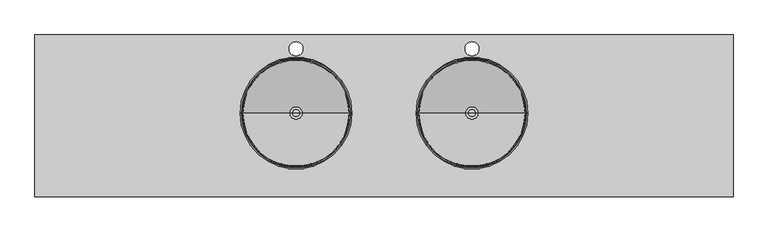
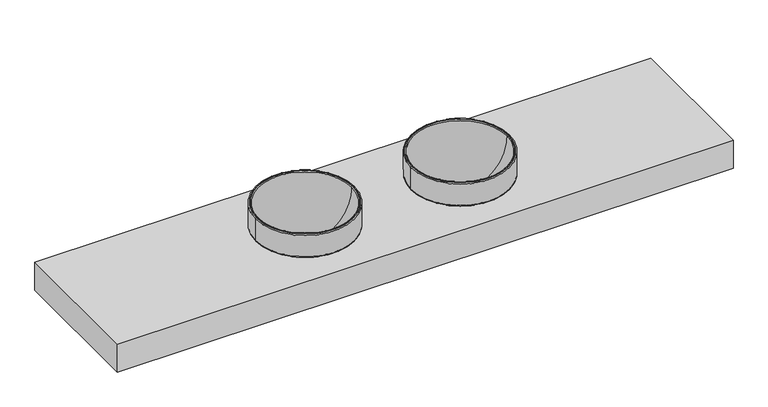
"""IFC4 building model written with IfcOpenShell, lengths in millimetres: flow terminal geometry, CUBIERTA BAÑO : CUBIERTA BAÑO 250CM."""

from ifc_helpers import new_model, si_unit, point, frame, origin, place, context, project, spatial, polyline, circle_curve, ellipse_curve, trimmed, source, transform, mapped, element, save
from ifc_brep_helpers import plane_surface, cylinder_surface, revolved_surface, advanced_brep


def flow_terminal_6561b867(model_context):
    return source(origin(), model_context, "Body", "AdvancedBrep", [
        advanced_brep(
        [(559.7003264, -280.0, 755.0254698), (159.7003264, -280.0, 755.0254698), (164.7257963, -280.0, 750.0), (554.6748566, -280.0, 750.0), (559.7003264, -280.0, 847.1369003), (159.7003264, -280.0, 847.1369003), (556.5666099, -280.0, 850.2706168), (162.834043, -280.0, 850.2706168), (552.8264261, -280.0, 850.2706168), (166.5742268, -280.0, 850.2706168), (549.9406449, -280.0, 847.3848356), (169.460008, -280.0, 847.3848356), (376.6370457, -280.0, 659.6971154), (342.7636072, -280.0, 659.6971154), (376.6370457, -280.0, 649.6794237), (342.7636072, -280.0, 649.6794237), (549.6748566, -280.0, 781.4886928), (169.7257963, -280.0, 781.4886928), (549.6748566, -280.0, 750.0), (169.7257963, -280.0, 750.0)],
        [
            (0, 1, circle_curve(frame((359.7003264, -280.0, 755.0254698), z_axis=(0.0, 0.0, -1.0), x_axis=(-1.0, 0.0, 0.0)), 200.0)),
            (1, 2, circle_curve(frame((164.7257963, -280.0, 755.0254698), z_axis=(0.0, -1.0, 0.0), x_axis=(-1.0, 0.0, 0.0)), 5.0254698)),
            (2, 3, circle_curve(frame((359.7003264, -280.0, 750.0), z_axis=(0.0, 0.0, 1.0), x_axis=(-1.0, 0.0, 0.0)), 194.9745302)),
            (3, 0, circle_curve(frame((554.6748566, -280.0, 755.0254698), z_axis=(0.0, -1.0, 0.0), x_axis=(1.0, 0.0, 0.0)), 5.0254698)),
            (1, 0, circle_curve(frame((359.7003264, -280.0, 755.0254698), z_axis=(0.0, 0.0, -1.0), x_axis=(-1.0, 0.0, 0.0)), 200.0)),
            (3, 2, circle_curve(frame((359.7003264, -280.0, 750.0), z_axis=(0.0, 0.0, 1.0), x_axis=(-1.0, 0.0, 0.0)), 194.9745302)),
            (4, 5, circle_curve(frame((359.7003264, -280.0, 847.1369003), z_axis=(0.0, 0.0, -1.0), x_axis=(-1.0, 0.0, 0.0)), 200.0)),
            (5, 1),
            (0, 4),
            (5, 4, circle_curve(frame((359.7003264, -280.0, 847.1369003), z_axis=(0.0, 0.0, -1.0), x_axis=(-1.0, 0.0, 0.0)), 200.0)),
            (6, 7, circle_curve(frame((359.7003264, -280.0, 850.2706168), z_axis=(0.0, 0.0, -1.0), x_axis=(-1.0, 0.0, 0.0)), 196.8662835)),
            (7, 5, circle_curve(frame((162.834043, -280.0, 847.1369003), z_axis=(0.0, -1.0, 0.0), x_axis=(-1.0, 0.0, 0.0)), 3.1337165)),
            (4, 6, circle_curve(frame((556.5666099, -280.0, 847.1369003), z_axis=(0.0, -1.0, 0.0), x_axis=(1.0, 0.0, 0.0)), 3.1337165)),
            (7, 6, circle_curve(frame((359.7003264, -280.0, 850.2706168), z_axis=(0.0, 0.0, -1.0), x_axis=(-1.0, 0.0, 0.0)), 196.8662835)),
            (8, 9, circle_curve(frame((359.7003264, -280.0, 850.2706168), z_axis=(0.0, 0.0, -1.0), x_axis=(-1.0, 0.0, 0.0)), 193.1260997)),
            (9, 7),
            (6, 8),
            (9, 8, circle_curve(frame((359.7003264, -280.0, 850.2706168), z_axis=(0.0, 0.0, -1.0), x_axis=(-1.0, 0.0, 0.0)), 193.1260997)),
            (10, 11, circle_curve(frame((359.7003264, -280.0, 847.3848356), z_axis=(0.0, 0.0, -1.0), x_axis=(-1.0, 0.0, 0.0)), 190.2403184)),
            (11, 9, circle_curve(frame((166.5742268, -280.0, 847.3848356), z_axis=(0.0, -1.0, 0.0), x_axis=(-1.0, 0.0, 0.0)), 2.8857812)),
            (8, 10, circle_curve(frame((552.8264261, -280.0, 847.3848356), z_axis=(0.0, -1.0, 0.0), x_axis=(1.0, 0.0, 0.0)), 2.8857812)),
            (11, 10, circle_curve(frame((359.7003264, -280.0, 847.3848356), z_axis=(0.0, 0.0, -1.0), x_axis=(-1.0, 0.0, 0.0)), 190.2403184)),
            (12, 13, circle_curve(frame((359.7003264, -280.0, 659.6971154), z_axis=(0.0, 0.0, -1.0), x_axis=(-1.0, 0.0, 0.0)), 16.9367193)),
            (13, 11, circle_curve(frame((354.0281906, -280.0, 843.9531856), z_axis=(0.0, 1.0, 0.0), x_axis=(-1.0, 0.0, 0.0)), 184.6000819)),
            (10, 12, circle_curve(frame((365.3724623, -280.0, 843.9531856), z_axis=(0.0, 1.0, 0.0), x_axis=(1.0, 0.0, 0.0)), 184.6000819)),
            (13, 12, circle_curve(frame((359.7003264, -280.0, 659.6971154), z_axis=(0.0, 0.0, -1.0), x_axis=(-1.0, 0.0, 0.0)), 16.9367193)),
            (14, 15, circle_curve(frame((359.7003264, -280.0, 649.6794237), z_axis=(0.0, 0.0, -1.0), x_axis=(-1.0, 0.0, 0.0)), 16.9367193)),
            (15, 13),
            (12, 14),
            (15, 14, circle_curve(frame((359.7003264, -280.0, 649.6794237), z_axis=(0.0, 0.0, -1.0), x_axis=(-1.0, 0.0, 0.0)), 16.9367193)),
            (16, 17, circle_curve(frame((359.7003264, -280.0, 781.4886928), z_axis=(0.0, 0.0, -1.0), x_axis=(-1.0, 0.0, 0.0)), 189.9745302)),
            (17, 15, circle_curve(frame((354.0281906, -280.0, 843.9531856), z_axis=(0.0, -1.0, 0.0), x_axis=(-1.0, 0.0, 0.0)), 194.6000653)),
            (14, 16, circle_curve(frame((365.3724623, -280.0, 843.9531856), z_axis=(0.0, -1.0, 0.0), x_axis=(1.0, 0.0, 0.0)), 194.6000653)),
            (17, 16, circle_curve(frame((359.7003264, -280.0, 781.4886928), z_axis=(0.0, 0.0, -1.0), x_axis=(-1.0, 0.0, 0.0)), 189.9745302)),
            (18, 19, circle_curve(frame((359.7003264, -280.0, 750.0), z_axis=(0.0, 0.0, -1.0), x_axis=(-1.0, 0.0, 0.0)), 189.9745302)),
            (19, 17),
            (16, 18),
            (19, 18, circle_curve(frame((359.7003264, -280.0, 750.0), z_axis=(0.0, 0.0, -1.0), x_axis=(-1.0, 0.0, 0.0)), 189.9745302)),
            (2, 19),
            (18, 3),
        ],
        [
            revolved_surface(trimmed(ellipse_curve(frame((164.7257963, -280.0, 755.0254698), z_axis=(0.0, 1.0, 0.0), x_axis=(-1.0, 0.0, 0.0)), 5.0254698, 5.0254698), [point((164.7257963, -280.0, 750.0))], [point((159.7003264, -280.0, 755.0254698))], True, "CARTESIAN"), (359.7003264, -280.0, 700.0), (0.0, 0.0, 1.0)),
            cylinder_surface(frame((359.7003264, -280.0, 700.0), z_axis=(0.0, 0.0, 1.0), x_axis=(-1.0, 0.0, 0.0)), 200.0),
            revolved_surface(trimmed(ellipse_curve(frame((162.834043, -280.0, 847.1369003), z_axis=(0.0, 1.0, 0.0), x_axis=(-1.0, 0.0, 0.0)), 3.1337165, 3.1337165), [point((159.7003264, -280.0, 847.1369003))], [point((162.834043, -280.0, 850.2706168))], True, "CARTESIAN"), (359.7003264, -280.0, 700.0), (0.0, 0.0, 1.0)),
            plane_surface(frame((359.7003264, -280.0, 850.2706168), z_axis=(0.0, 0.0, 1.0), x_axis=(-1.0, 0.0, 0.0))),
            revolved_surface(trimmed(ellipse_curve(frame((166.5742268, -280.0, 847.3848356), z_axis=(0.0, 1.0, 0.0), x_axis=(-1.0, 0.0, 0.0)), 2.8857812, 2.8857812), [point((166.5742268, -280.0, 850.2706168))], [point((169.460008, -280.0, 847.3848356))], True, "CARTESIAN"), (359.7003264, -280.0, 700.0), (0.0, 0.0, 1.0)),
            revolved_surface(trimmed(ellipse_curve(frame((354.0281906, -280.0, 843.9531856), z_axis=(0.0, -1.0, 0.0), x_axis=(-1.0, 0.0, 0.0)), 184.6000819, 184.6000819), [point((169.460008, -280.0, 847.3848356))], [point((342.7636072, -280.0, 659.6971154))], True, "CARTESIAN"), (359.7003264, -280.0, 700.0), (0.0, 0.0, 1.0)),
            revolved_surface(polyline([(342.7636071, -280.0, 659.6971154), (342.7636071, -280.0, 649.6794237)]), (359.7003264, -280.0, 700.0), (0.0, 0.0, 1.0)),
            revolved_surface(trimmed(ellipse_curve(frame((354.0281906, -280.0, 843.9531856), z_axis=(0.0, 1.0, 0.0), x_axis=(-1.0, 0.0, 0.0)), 194.6000653, 194.6000653), [point((342.7636072, -280.0, 649.6794237))], [point((169.7257963, -280.0, 781.4886928))], True, "CARTESIAN"), (359.7003264, -280.0, 700.0), (0.0, 0.0, 1.0)),
            revolved_surface(polyline([(169.7257962, -280.0, 781.4886928), (169.7257962, -280.0, 750.0)]), (359.7003264, -280.0, 700.0), (0.0, 0.0, 1.0)),
            plane_surface(frame((359.7003264, -280.0, 750.0), z_axis=(0.0, 0.0, -1.0), x_axis=(-1.0, 0.0, 0.0))),
        ],
        [
            (0, [[1, 2, 3, 4]]),
            (0, [[5, -4, 6, -2]]),
            (1, [[7, 8, -1, 9]]),
            (1, [[10, -9, -5, -8]]),
            (2, [[11, 12, -7, 13]]),
            (2, [[14, -13, -10, -12]]),
            (3, [[15, 16, -11, 17]]),
            (3, [[18, -17, -14, -16]]),
            (4, [[19, 20, -15, 21]]),
            (4, [[22, -21, -18, -20]]),
            (5, [[23, 24, -19, 25]]),
            (5, [[26, -25, -22, -24]]),
            (6, [[27, 28, -23, 29]]),
            (6, [[30, -29, -26, -28]]),
            (7, [[31, 32, -27, 33]]),
            (7, [[34, -33, -30, -32]]),
            (8, [[35, 36, -31, 37]]),
            (8, [[38, -37, -34, -36]]),
            (9, [[-3, 39, -35, 40]]),
            (9, [[-6, -40, -38, -39]]),
        ],
    ),
        advanced_brep(
        [(373.4382327, -280.0, 661.875), (345.9624201, -280.0, 661.875), (337.7003264, -280.0, 661.875), (381.7003264, -280.0, 661.875), (373.4382327, -280.0, 643.7247134), (345.9624201, -280.0, 643.7247134), (359.7003264, -280.0, 643.7247134), (376.7003264, -280.0, 640.0), (342.7003264, -280.0, 640.0), (359.7003264, -280.0, 640.0), (376.7003264, -280.0, 660.339751), (342.7003264, -280.0, 660.339751), (381.7003264, -280.0, 660.339751), (337.7003264, -280.0, 660.339751)],
        [
            (0, 1, circle_curve(frame((359.7003264, -280.0, 661.875), z_axis=(0.0, 0.0, -1.0), x_axis=(-1.0, 0.0, 0.0)), 13.7379063)),
            (1, 2),
            (2, 3, circle_curve(frame((359.7003264, -280.0, 661.875), z_axis=(0.0, 0.0, 1.0), x_axis=(-1.0, 0.0, 0.0)), 22.0)),
            (3, 0),
            (1, 0, circle_curve(frame((359.7003264, -280.0, 661.875), z_axis=(0.0, 0.0, -1.0), x_axis=(-1.0, 0.0, 0.0)), 13.7379063)),
            (3, 2, circle_curve(frame((359.7003264, -280.0, 661.875), z_axis=(0.0, 0.0, 1.0), x_axis=(-1.0, 0.0, 0.0)), 22.0)),
            (4, 5, circle_curve(frame((359.7003264, -280.0, 643.7247134), z_axis=(0.0, 0.0, -1.0), x_axis=(-1.0, 0.0, 0.0)), 13.7379063)),
            (5, 1),
            (0, 4),
            (5, 4, circle_curve(frame((359.7003264, -280.0, 643.7247134), z_axis=(0.0, 0.0, -1.0), x_axis=(-1.0, 0.0, 0.0)), 13.7379063)),
            (6, 5),
            (4, 6),
            (7, 8, circle_curve(frame((359.7003264, -280.0, 640.0), z_axis=(0.0, 0.0, -1.0), x_axis=(-1.0, 0.0, 0.0)), 17.0)),
            (8, 9),
            (9, 7),
            (8, 7, circle_curve(frame((359.7003264, -280.0, 640.0), z_axis=(0.0, 0.0, -1.0), x_axis=(-1.0, 0.0, 0.0)), 17.0)),
            (10, 11, circle_curve(frame((359.7003264, -280.0, 660.339751), z_axis=(0.0, 0.0, -1.0), x_axis=(-1.0, 0.0, 0.0)), 17.0)),
            (11, 8),
            (7, 10),
            (11, 10, circle_curve(frame((359.7003264, -280.0, 660.339751), z_axis=(0.0, 0.0, -1.0), x_axis=(-1.0, 0.0, 0.0)), 17.0)),
            (12, 13, circle_curve(frame((359.7003264, -280.0, 660.339751), z_axis=(0.0, 0.0, -1.0), x_axis=(-1.0, 0.0, 0.0)), 22.0)),
            (13, 11),
            (10, 12),
            (13, 12, circle_curve(frame((359.7003264, -280.0, 660.339751), z_axis=(0.0, 0.0, -1.0), x_axis=(-1.0, 0.0, 0.0)), 22.0)),
            (2, 13),
            (12, 3),
        ],
        [
            plane_surface(frame((359.7003264, -280.0, 661.875), z_axis=(0.0, 0.0, 1.0), x_axis=(-1.0, 0.0, 0.0))),
            revolved_surface(polyline([(345.9624201, -280.0, 661.875), (345.9624201, -280.0, 643.7247134)]), (359.7003264, -280.0, 639.8833255), (0.0, 0.0, 1.0)),
            plane_surface(frame((359.7003264, -280.0, 643.7247134), z_axis=(0.0, 0.0, 1.0), x_axis=(-1.0, 0.0, 0.0))),
            plane_surface(frame((359.7003264, -280.0, 640.0), z_axis=(0.0, 0.0, -1.0), x_axis=(-1.0, 0.0, 0.0))),
            cylinder_surface(frame((359.7003264, -280.0, 639.8833255), z_axis=(0.0, 0.0, 1.0), x_axis=(-1.0, 0.0, 0.0)), 17.0),
            plane_surface(frame((359.7003264, -280.0, 660.339751), z_axis=(0.0, 0.0, -1.0), x_axis=(-1.0, 0.0, 0.0))),
            cylinder_surface(frame((359.7003264, -280.0, 639.8833255), z_axis=(0.0, 0.0, 1.0), x_axis=(-1.0, 0.0, 0.0)), 22.0),
        ],
        [
            (0, [[1, 2, 3, 4]]),
            (0, [[5, -4, 6, -2]]),
            (1, [[7, 8, -1, 9]]),
            (1, [[10, -9, -5, -8]]),
            (2, [[11, -7, 12]]),
            (2, [[-12, -10, -11]]),
            (3, [[13, 14, 15]]),
            (3, [[16, -15, -14]]),
            (4, [[17, 18, -13, 19]]),
            (4, [[20, -19, -16, -18]]),
            (5, [[21, 22, -17, 23]]),
            (5, [[24, -23, -20, -22]]),
            (6, [[-3, 25, -21, 26]]),
            (6, [[-6, -26, -24, -25]]),
        ],
    ),
        advanced_brep(
        [(-70.2996736, -280.0, 755.0254698), (-470.2996736, -280.0, 755.0254698), (-465.2742037, -280.0, 750.0), (-75.3251434, -280.0, 750.0), (-70.2996736, -280.0, 847.1369003), (-470.2996736, -280.0, 847.1369003), (-73.4333901, -280.0, 850.2706168), (-467.165957, -280.0, 850.2706168), (-77.1735739, -280.0, 850.2706168), (-463.4257732, -280.0, 850.2706168), (-80.0593551, -280.0, 847.3848356), (-460.539992, -280.0, 847.3848356), (-253.3629543, -280.0, 659.6971154), (-287.2363928, -280.0, 659.6971154), (-253.3629543, -280.0, 649.6794237), (-287.2363928, -280.0, 649.6794237), (-80.3251434, -280.0, 781.4886928), (-460.2742037, -280.0, 781.4886928), (-80.3251434, -280.0, 750.0), (-460.2742037, -280.0, 750.0)],
        [
            (0, 1, circle_curve(frame((-270.2996736, -280.0, 755.0254698), z_axis=(0.0, 0.0, -1.0), x_axis=(-1.0, 0.0, 0.0)), 200.0)),
            (1, 2, circle_curve(frame((-465.2742037, -280.0, 755.0254698), z_axis=(0.0, -1.0, 0.0), x_axis=(-1.0, 0.0, 0.0)), 5.0254698)),
            (2, 3, circle_curve(frame((-270.2996736, -280.0, 750.0), z_axis=(0.0, 0.0, 1.0), x_axis=(-1.0, 0.0, 0.0)), 194.9745302)),
            (3, 0, circle_curve(frame((-75.3251434, -280.0, 755.0254698), z_axis=(0.0, -1.0, 0.0), x_axis=(1.0, 0.0, 0.0)), 5.0254698)),
            (1, 0, circle_curve(frame((-270.2996736, -280.0, 755.0254698), z_axis=(0.0, 0.0, -1.0), x_axis=(-1.0, 0.0, 0.0)), 200.0)),
            (3, 2, circle_curve(frame((-270.2996736, -280.0, 750.0), z_axis=(0.0, 0.0, 1.0), x_axis=(-1.0, 0.0, 0.0)), 194.9745302)),
            (4, 5, circle_curve(frame((-270.2996736, -280.0, 847.1369003), z_axis=(0.0, 0.0, -1.0), x_axis=(-1.0, 0.0, 0.0)), 200.0)),
            (5, 1),
            (0, 4),
            (5, 4, circle_curve(frame((-270.2996736, -280.0, 847.1369003), z_axis=(0.0, 0.0, -1.0), x_axis=(-1.0, 0.0, 0.0)), 200.0)),
            (6, 7, circle_curve(frame((-270.2996736, -280.0, 850.2706168), z_axis=(0.0, 0.0, -1.0), x_axis=(-1.0, 0.0, 0.0)), 196.8662835)),
            (7, 5, circle_curve(frame((-467.165957, -280.0, 847.1369003), z_axis=(0.0, -1.0, 0.0), x_axis=(-1.0, 0.0, 0.0)), 3.1337165)),
            (4, 6, circle_curve(frame((-73.4333901, -280.0, 847.1369003), z_axis=(0.0, -1.0, 0.0), x_axis=(1.0, 0.0, 0.0)), 3.1337165)),
            (7, 6, circle_curve(frame((-270.2996736, -280.0, 850.2706168), z_axis=(0.0, 0.0, -1.0), x_axis=(-1.0, 0.0, 0.0)), 196.8662835)),
            (8, 9, circle_curve(frame((-270.2996736, -280.0, 850.2706168), z_axis=(0.0, 0.0, -1.0), x_axis=(-1.0, 0.0, 0.0)), 193.1260997)),
            (9, 7),
            (6, 8),
            (9, 8, circle_curve(frame((-270.2996736, -280.0, 850.2706168), z_axis=(0.0, 0.0, -1.0), x_axis=(-1.0, 0.0, 0.0)), 193.1260997)),
            (10, 11, circle_curve(frame((-270.2996736, -280.0, 847.3848356), z_axis=(0.0, 0.0, -1.0), x_axis=(-1.0, 0.0, 0.0)), 190.2403184)),
            (11, 9, circle_curve(frame((-463.4257732, -280.0, 847.3848356), z_axis=(0.0, -1.0, 0.0), x_axis=(-1.0, 0.0, 0.0)), 2.8857812)),
            (8, 10, circle_curve(frame((-77.1735739, -280.0, 847.3848356), z_axis=(0.0, -1.0, 0.0), x_axis=(1.0, 0.0, 0.0)), 2.8857812)),
            (11, 10, circle_curve(frame((-270.2996736, -280.0, 847.3848356), z_axis=(0.0, 0.0, -1.0), x_axis=(-1.0, 0.0, 0.0)), 190.2403184)),
            (12, 13, circle_curve(frame((-270.2996736, -280.0, 659.6971154), z_axis=(0.0, 0.0, -1.0), x_axis=(-1.0, 0.0, 0.0)), 16.9367193)),
            (13, 11, circle_curve(frame((-275.9718094, -280.0, 843.9531856), z_axis=(0.0, 1.0, 0.0), x_axis=(-1.0, 0.0, 0.0)), 184.6000819)),
            (10, 12, circle_curve(frame((-264.6275377, -280.0, 843.9531856), z_axis=(0.0, 1.0, 0.0), x_axis=(1.0, 0.0, 0.0)), 184.6000819)),
            (13, 12, circle_curve(frame((-270.2996736, -280.0, 659.6971154), z_axis=(0.0, 0.0, -1.0), x_axis=(-1.0, 0.0, 0.0)), 16.9367193)),
            (14, 15, circle_curve(frame((-270.2996736, -280.0, 649.6794237), z_axis=(0.0, 0.0, -1.0), x_axis=(-1.0, 0.0, 0.0)), 16.9367193)),
            (15, 13),
            (12, 14),
            (15, 14, circle_curve(frame((-270.2996736, -280.0, 649.6794237), z_axis=(0.0, 0.0, -1.0), x_axis=(-1.0, 0.0, 0.0)), 16.9367193)),
            (16, 17, circle_curve(frame((-270.2996736, -280.0, 781.4886928), z_axis=(0.0, 0.0, -1.0), x_axis=(-1.0, 0.0, 0.0)), 189.9745302)),
            (17, 15, circle_curve(frame((-275.9718094, -280.0, 843.9531856), z_axis=(0.0, -1.0, 0.0), x_axis=(-1.0, 0.0, 0.0)), 194.6000653)),
            (14, 16, circle_curve(frame((-264.6275377, -280.0, 843.9531856), z_axis=(0.0, -1.0, 0.0), x_axis=(1.0, 0.0, 0.0)), 194.6000653)),
            (17, 16, circle_curve(frame((-270.2996736, -280.0, 781.4886928), z_axis=(0.0, 0.0, -1.0), x_axis=(-1.0, 0.0, 0.0)), 189.9745302)),
            (18, 19, circle_curve(frame((-270.2996736, -280.0, 750.0), z_axis=(0.0, 0.0, -1.0), x_axis=(-1.0, 0.0, 0.0)), 189.9745302)),
            (19, 17),
            (16, 18),
            (19, 18, circle_curve(frame((-270.2996736, -280.0, 750.0), z_axis=(0.0, 0.0, -1.0), x_axis=(-1.0, 0.0, 0.0)), 189.9745302)),
            (2, 19),
            (18, 3),
        ],
        [
            revolved_surface(trimmed(ellipse_curve(frame((-465.2742037, -280.0, 755.0254698), z_axis=(0.0, 1.0, 0.0), x_axis=(-1.0, 0.0, 0.0)), 5.0254698, 5.0254698), [point((-465.2742037, -280.0, 750.0))], [point((-470.2996736, -280.0, 755.0254698))], True, "CARTESIAN"), (-270.2996736, -280.0, 700.0), (0.0, 0.0, 1.0)),
            cylinder_surface(frame((-270.2996736, -280.0, 700.0), z_axis=(0.0, 0.0, 1.0), x_axis=(-1.0, 0.0, 0.0)), 200.0),
            revolved_surface(trimmed(ellipse_curve(frame((-467.165957, -280.0, 847.1369003), z_axis=(0.0, 1.0, 0.0), x_axis=(-1.0, 0.0, 0.0)), 3.1337165, 3.1337165), [point((-470.2996736, -280.0, 847.1369003))], [point((-467.165957, -280.0, 850.2706168))], True, "CARTESIAN"), (-270.2996736, -280.0, 700.0), (0.0, 0.0, 1.0)),
            plane_surface(frame((-270.2996736, -280.0, 850.2706168), z_axis=(0.0, 0.0, 1.0), x_axis=(-1.0, 0.0, 0.0))),
            revolved_surface(trimmed(ellipse_curve(frame((-463.4257732, -280.0, 847.3848356), z_axis=(0.0, 1.0, 0.0), x_axis=(-1.0, 0.0, 0.0)), 2.8857812, 2.8857812), [point((-463.4257732, -280.0, 850.2706168))], [point((-460.539992, -280.0, 847.3848356))], True, "CARTESIAN"), (-270.2996736, -280.0, 700.0), (0.0, 0.0, 1.0)),
            revolved_surface(trimmed(ellipse_curve(frame((-275.9718094, -280.0, 843.9531856), z_axis=(0.0, -1.0, 0.0), x_axis=(-1.0, 0.0, 0.0)), 184.6000819, 184.6000819), [point((-460.539992, -280.0, 847.3848356))], [point((-287.2363928, -280.0, 659.6971154))], True, "CARTESIAN"), (-270.2996736, -280.0, 700.0), (0.0, 0.0, 1.0)),
            revolved_surface(polyline([(-287.2363929, -280.0, 659.6971154), (-287.2363929, -280.0, 649.6794237)]), (-270.2996736, -280.0, 700.0), (0.0, 0.0, 1.0)),
            revolved_surface(trimmed(ellipse_curve(frame((-275.9718094, -280.0, 843.9531856), z_axis=(0.0, 1.0, 0.0), x_axis=(-1.0, 0.0, 0.0)), 194.6000653, 194.6000653), [point((-287.2363928, -280.0, 649.6794237))], [point((-460.2742037, -280.0, 781.4886928))], True, "CARTESIAN"), (-270.2996736, -280.0, 700.0), (0.0, 0.0, 1.0)),
            revolved_surface(polyline([(-460.2742038, -280.0, 781.4886928), (-460.2742038, -280.0, 750.0)]), (-270.2996736, -280.0, 700.0), (0.0, 0.0, 1.0)),
            plane_surface(frame((-270.2996736, -280.0, 750.0), z_axis=(0.0, 0.0, -1.0), x_axis=(-1.0, 0.0, 0.0))),
        ],
        [
            (0, [[1, 2, 3, 4]]),
            (0, [[5, -4, 6, -2]]),
            (1, [[7, 8, -1, 9]]),
            (1, [[10, -9, -5, -8]]),
            (2, [[11, 12, -7, 13]]),
            (2, [[14, -13, -10, -12]]),
            (3, [[15, 16, -11, 17]]),
            (3, [[18, -17, -14, -16]]),
            (4, [[19, 20, -15, 21]]),
            (4, [[22, -21, -18, -20]]),
            (5, [[23, 24, -19, 25]]),
            (5, [[26, -25, -22, -24]]),
            (6, [[27, 28, -23, 29]]),
            (6, [[30, -29, -26, -28]]),
            (7, [[31, 32, -27, 33]]),
            (7, [[34, -33, -30, -32]]),
            (8, [[35, 36, -31, 37]]),
            (8, [[38, -37, -34, -36]]),
            (9, [[-3, 39, -35, 40]]),
            (9, [[-6, -40, -38, -39]]),
        ],
    ),
        advanced_brep(
        [(-256.5617673, -280.0, 661.875), (-284.0375799, -280.0, 661.875), (-292.2996736, -280.0, 661.875), (-248.2996736, -280.0, 661.875), (-256.5617673, -280.0, 643.7247134), (-284.0375799, -280.0, 643.7247134), (-270.2996736, -280.0, 643.7247134), (-253.2996736, -280.0, 640.0), (-287.2996736, -280.0, 640.0), (-270.2996736, -280.0, 640.0), (-253.2996736, -280.0, 660.339751), (-287.2996736, -280.0, 660.339751), (-248.2996736, -280.0, 660.339751), (-292.2996736, -280.0, 660.339751)],
        [
            (0, 1, circle_curve(frame((-270.2996736, -280.0, 661.875), z_axis=(0.0, 0.0, -1.0), x_axis=(-1.0, 0.0, 0.0)), 13.7379063)),
            (1, 2),
            (2, 3, circle_curve(frame((-270.2996736, -280.0, 661.875), z_axis=(0.0, 0.0, 1.0), x_axis=(-1.0, 0.0, 0.0)), 22.0)),
            (3, 0),
            (1, 0, circle_curve(frame((-270.2996736, -280.0, 661.875), z_axis=(0.0, 0.0, -1.0), x_axis=(-1.0, 0.0, 0.0)), 13.7379063)),
            (3, 2, circle_curve(frame((-270.2996736, -280.0, 661.875), z_axis=(0.0, 0.0, 1.0), x_axis=(-1.0, 0.0, 0.0)), 22.0)),
            (4, 5, circle_curve(frame((-270.2996736, -280.0, 643.7247134), z_axis=(0.0, 0.0, -1.0), x_axis=(-1.0, 0.0, 0.0)), 13.7379063)),
            (5, 1),
            (0, 4),
            (5, 4, circle_curve(frame((-270.2996736, -280.0, 643.7247134), z_axis=(0.0, 0.0, -1.0), x_axis=(-1.0, 0.0, 0.0)), 13.7379063)),
            (6, 5),
            (4, 6),
            (7, 8, circle_curve(frame((-270.2996736, -280.0, 640.0), z_axis=(0.0, 0.0, -1.0), x_axis=(-1.0, 0.0, 0.0)), 17.0)),
            (8, 9),
            (9, 7),
            (8, 7, circle_curve(frame((-270.2996736, -280.0, 640.0), z_axis=(0.0, 0.0, -1.0), x_axis=(-1.0, 0.0, 0.0)), 17.0)),
            (10, 11, circle_curve(frame((-270.2996736, -280.0, 660.339751), z_axis=(0.0, 0.0, -1.0), x_axis=(-1.0, 0.0, 0.0)), 17.0)),
            (11, 8),
            (7, 10),
            (11, 10, circle_curve(frame((-270.2996736, -280.0, 660.339751), z_axis=(0.0, 0.0, -1.0), x_axis=(-1.0, 0.0, 0.0)), 17.0)),
            (12, 13, circle_curve(frame((-270.2996736, -280.0, 660.339751), z_axis=(0.0, 0.0, -1.0), x_axis=(-1.0, 0.0, 0.0)), 22.0)),
            (13, 11),
            (10, 12),
            (13, 12, circle_curve(frame((-270.2996736, -280.0, 660.339751), z_axis=(0.0, 0.0, -1.0), x_axis=(-1.0, 0.0, 0.0)), 22.0)),
            (2, 13),
            (12, 3),
        ],
        [
            plane_surface(frame((-270.2996736, -280.0, 661.875), z_axis=(0.0, 0.0, 1.0), x_axis=(-1.0, 0.0, 0.0))),
            revolved_surface(polyline([(-284.0375799, -280.0, 661.875), (-284.0375799, -280.0, 643.7247134)]), (-270.2996736, -280.0, 639.8833255), (0.0, 0.0, 1.0)),
            plane_surface(frame((-270.2996736, -280.0, 643.7247134), z_axis=(0.0, 0.0, 1.0), x_axis=(-1.0, 0.0, 0.0))),
            plane_surface(frame((-270.2996736, -280.0, 640.0), z_axis=(0.0, 0.0, -1.0), x_axis=(-1.0, 0.0, 0.0))),
            cylinder_surface(frame((-270.2996736, -280.0, 639.8833255), z_axis=(0.0, 0.0, 1.0), x_axis=(-1.0, 0.0, 0.0)), 17.0),
            plane_surface(frame((-270.2996736, -280.0, 660.339751), z_axis=(0.0, 0.0, -1.0), x_axis=(-1.0, 0.0, 0.0))),
            cylinder_surface(frame((-270.2996736, -280.0, 639.8833255), z_axis=(0.0, 0.0, 1.0), x_axis=(-1.0, 0.0, 0.0)), 22.0),
        ],
        [
            (0, [[1, 2, 3, 4]]),
            (0, [[5, -4, 6, -2]]),
            (1, [[7, 8, -1, 9]]),
            (1, [[10, -9, -5, -8]]),
            (2, [[11, -7, 12]]),
            (2, [[-12, -10, -11]]),
            (3, [[13, 14, 15]]),
            (3, [[16, -15, -14]]),
            (4, [[17, 18, -13, 19]]),
            (4, [[20, -19, -16, -18]]),
            (5, [[21, 22, -17, 23]]),
            (5, [[24, -23, -20, -22]]),
            (6, [[-3, 25, -21, 26]]),
            (6, [[-6, -26, -24, -25]]),
        ],
    ),
        advanced_brep(
        [(-1185.2996736, 0.0, 730.2844037), (1274.7003264, 0.0, 730.2844037), (1274.7003264, -560.0, 730.2844037), (-1185.2996736, -560.0, 730.2844037), (-270.2996736, -25.0, 730.2844037), (-270.2996736, -75.0, 730.2844037), (-270.2996736, -100.0, 730.2844037), (-270.2996736, -460.0, 730.2844037), (359.7003264, -25.0, 730.2844037), (359.7003264, -75.0, 730.2844037), (359.7003264, -100.0, 730.2844037), (359.7003264, -460.0, 730.2844037), (1294.7003264, 0.0, 750.0), (-1205.2996736, 0.0, 750.0), (-1205.2996736, -580.0, 750.0), (1294.7003264, -580.0, 750.0), (-270.2996736, -25.0, 750.0), (-270.2996736, -75.0, 750.0), (-270.2996736, -100.0, 750.0), (-270.2996736, -460.0, 750.0), (359.7003264, -25.0, 750.0), (359.7003264, -75.0, 750.0), (359.7003264, -100.0, 750.0), (359.7003264, -460.0, 750.0), (1294.7003264, 0.0, 630.0), (1274.7003264, 0.0, 630.0), (-1185.2996736, 0.0, 630.0), (-1205.2996736, 0.0, 630.0), (-1205.2996736, -580.0, 630.0), (1294.7003264, -580.0, 630.0), (-1185.2996736, -560.0, 630.0), (1274.7003264, -560.0, 630.0)],
        [
            (0, 1),
            (1, 2),
            (2, 3),
            (3, 0),
            (4, 5, circle_curve(frame((-270.2996736, -50.0, 730.2844037), z_axis=(0.0, 0.0, 1.0), x_axis=(0.0, -1.0, 0.0)), 25.0)),
            (5, 4, circle_curve(frame((-270.2996736, -50.0, 730.2844037), z_axis=(0.0, 0.0, 1.0), x_axis=(0.0, -1.0, 0.0)), 25.0)),
            (6, 7, circle_curve(frame((-270.2996736, -280.0, 730.2844037), z_axis=(0.0, 0.0, 1.0), x_axis=(0.0, -1.0, 0.0)), 180.0)),
            (7, 6, circle_curve(frame((-270.2996736, -280.0, 730.2844037), z_axis=(0.0, 0.0, 1.0), x_axis=(0.0, -1.0, 0.0)), 180.0)),
            (8, 9, circle_curve(frame((359.7003264, -50.0, 730.2844037), z_axis=(0.0, 0.0, 1.0), x_axis=(0.0, -1.0, 0.0)), 25.0)),
            (9, 8, circle_curve(frame((359.7003264, -50.0, 730.2844037), z_axis=(0.0, 0.0, 1.0), x_axis=(0.0, -1.0, 0.0)), 25.0)),
            (10, 11, circle_curve(frame((359.7003264, -280.0, 730.2844037), z_axis=(0.0, 0.0, 1.0), x_axis=(0.0, -1.0, 0.0)), 180.0)),
            (11, 10, circle_curve(frame((359.7003264, -280.0, 730.2844037), z_axis=(0.0, 0.0, 1.0), x_axis=(0.0, -1.0, 0.0)), 180.0)),
            (12, 13),
            (13, 14),
            (14, 15),
            (15, 12),
            (16, 17, circle_curve(frame((-270.2996736, -50.0, 750.0), z_axis=(0.0, 0.0, -1.0), x_axis=(0.0, -1.0, 0.0)), 25.0)),
            (17, 16, circle_curve(frame((-270.2996736, -50.0, 750.0), z_axis=(0.0, 0.0, -1.0), x_axis=(0.0, -1.0, 0.0)), 25.0)),
            (18, 19, circle_curve(frame((-270.2996736, -280.0, 750.0), z_axis=(0.0, 0.0, -1.0), x_axis=(0.0, -1.0, 0.0)), 180.0)),
            (19, 18, circle_curve(frame((-270.2996736, -280.0, 750.0), z_axis=(0.0, 0.0, -1.0), x_axis=(0.0, -1.0, 0.0)), 180.0)),
            (20, 21, circle_curve(frame((359.7003264, -50.0, 750.0), z_axis=(0.0, 0.0, -1.0), x_axis=(0.0, -1.0, 0.0)), 25.0)),
            (21, 20, circle_curve(frame((359.7003264, -50.0, 750.0), z_axis=(0.0, 0.0, -1.0), x_axis=(0.0, -1.0, 0.0)), 25.0)),
            (22, 23, circle_curve(frame((359.7003264, -280.0, 750.0), z_axis=(0.0, 0.0, -1.0), x_axis=(0.0, -1.0, 0.0)), 180.0)),
            (23, 22, circle_curve(frame((359.7003264, -280.0, 750.0), z_axis=(0.0, 0.0, -1.0), x_axis=(0.0, -1.0, 0.0)), 180.0)),
            (12, 24),
            (24, 25),
            (25, 1),
            (0, 26),
            (26, 27),
            (27, 13),
            (27, 28),
            (28, 14),
            (28, 29),
            (29, 15),
            (29, 24),
            (5, 17),
            (16, 4),
            (7, 19),
            (18, 6),
            (9, 21),
            (20, 8),
            (11, 23),
            (22, 10),
            (26, 30),
            (30, 31),
            (31, 25),
            (31, 2),
            (30, 3),
        ],
        [
            plane_surface(frame((-1205.2996736, 0.0, 730.2844037), z_axis=(0.0, 0.0, -1.0), x_axis=(1.0, 0.0, 0.0))),
            plane_surface(frame((-1205.2996736, 0.0, 750.0), z_axis=(0.0, 0.0, 1.0), x_axis=(-1.0, 0.0, 0.0))),
            plane_surface(frame((1294.7003264, 0.0, 750.0), z_axis=(0.0, 1.0, 0.0), x_axis=(0.0, 0.0, -1.0))),
            plane_surface(frame((-1205.2996736, 0.0, 750.0), z_axis=(-1.0, 0.0, 0.0), x_axis=(0.0, 0.0, -1.0))),
            plane_surface(frame((-1205.2996736, -580.0, 750.0), z_axis=(0.0, -1.0, 0.0), x_axis=(0.0, 0.0, -1.0))),
            plane_surface(frame((1294.7003264, -580.0, 750.0), z_axis=(1.0, 0.0, 0.0), x_axis=(0.0, 0.0, -1.0))),
            revolved_surface(polyline([(-270.2996736, -75.0, 730.2844037), (-270.2996736, -75.0, 750.0)]), (-270.2996736, -50.0, 750.0), (0.0, 0.0, -1.0)),
            revolved_surface(polyline([(-270.2996736, -460.0, 730.2844037), (-270.2996736, -460.0, 750.0)]), (-270.2996736, -280.0, 750.0), (0.0, 0.0, -1.0)),
            revolved_surface(polyline([(359.7003264, -75.0, 730.2844037), (359.7003264, -75.0, 750.0)]), (359.7003264, -50.0, 750.0), (0.0, 0.0, -1.0)),
            revolved_surface(polyline([(359.7003264, -460.0, 730.2844037), (359.7003264, -460.0, 750.0)]), (359.7003264, -280.0, 750.0), (0.0, 0.0, -1.0)),
            plane_surface(frame((-1205.2996736, -580.0, 630.0), z_axis=(0.0, 0.0, -1.0), x_axis=(-1.0, 0.0, 0.0))),
            plane_surface(frame((1274.7003264, 0.0, 730.2844037), z_axis=(-1.0, 0.0, 0.0), x_axis=(0.0, 0.0, -1.0))),
            plane_surface(frame((1274.7003264, -560.0, 730.2844037), z_axis=(0.0, 1.0, 0.0), x_axis=(0.0, 0.0, -1.0))),
            plane_surface(frame((-1185.2996736, -560.0, 730.2844037), z_axis=(1.0, 0.0, 0.0), x_axis=(0.0, 0.0, -1.0))),
        ],
        [
            (0, [[1, 2, 3, 4], [5, 6], [7, 8], [9, 10], [11, 12]]),
            (1, [[13, 14, 15, 16], [17, 18], [19, 20], [21, 22], [23, 24]]),
            (2, [[-13, 25, 26, 27, -1, 28, 29, 30]]),
            (3, [[-14, -30, 31, 32]]),
            (4, [[-15, -32, 33, 34]]),
            (5, [[-25, -16, -34, 35]]),
            (6, [[-6, 36, -17, 37]]),
            (6, [[-5, -37, -18, -36]]),
            (7, [[-8, 38, -19, 39]]),
            (7, [[-7, -39, -20, -38]]),
            (8, [[-10, 40, -21, 41]]),
            (8, [[-9, -41, -22, -40]]),
            (9, [[-12, 42, -23, 43]]),
            (9, [[-11, -43, -24, -42]]),
            (10, [[-31, -29, 44, 45, 46, -26, -35, -33]]),
            (11, [[-46, 47, -2, -27]]),
            (12, [[-45, 48, -3, -47]]),
            (13, [[-44, -28, -4, -48]]),
        ],
    ),
    ])


if __name__ == "__main__":
    model = new_model("IFC4")
    model_context = context("Model", 3, world=origin())
    ifc_project = project(units=[si_unit("LENGTHUNIT", "METRE", prefix="MILLI")], contexts=[model_context])
    site = spatial("IfcSite", under=ifc_project)
    building = spatial("IfcBuilding", under=site)
    placement = place(None, origin())
    flow_terminal_shape = flow_terminal_6561b867(model_context)
    element("IfcFlowTerminal", 1, ObjectType="CUBIERTA BAÑO : CUBIERTA BAÑO 250CM", at=placement, inside=building, context=model_context, shape_type="MappedRepresentation", body=[
        mapped(flow_terminal_shape, transform((0.0, 0.0, 0.0), x_axis=(1.0, 0.0, 0.0), y_axis=(0.0, 1.0, 0.0), z_axis=(0.0, 0.0, 1.0))),
    ])
    save(model, "model.ifc")
